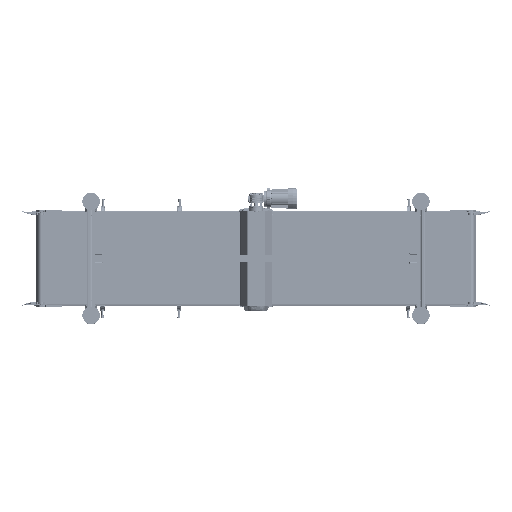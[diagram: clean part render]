
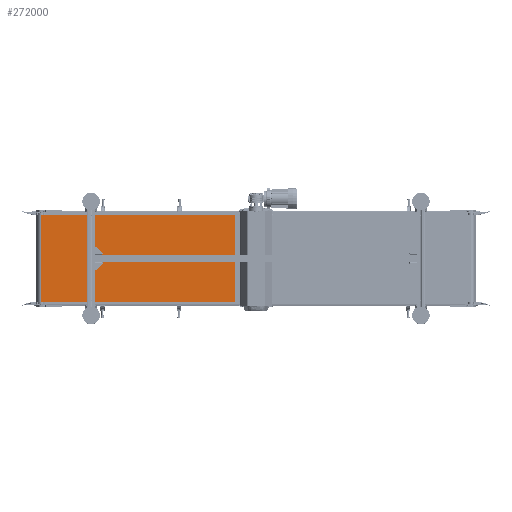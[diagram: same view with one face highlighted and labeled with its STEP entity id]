
A CAD part, front view. The second image highlights one B-rep face of the part: STEP entity #272000.
In plain terms, the highlighted planar face has unit normal (0, -1, 0).
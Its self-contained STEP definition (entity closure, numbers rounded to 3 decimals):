
#8278 = AXIS2_PLACEMENT_3D ( 'NONE', #306815, #258265, #112532 ) ;
#15733 = DIRECTION ( 'NONE',  ( 0., 0., -1. ) ) ;
#22550 = DIRECTION ( 'NONE',  ( 0., 0., -1. ) ) ;
#30141 = CARTESIAN_POINT ( 'NONE',  ( -1230., -27., -250. ) ) ;
#37878 = VECTOR ( 'NONE', #165054, 1000. ) ;
#63345 = LINE ( 'NONE', #210794, #67002 ) ;
#67002 = VECTOR ( 'NONE', #162222, 1000. ) ;
#112532 = DIRECTION ( 'NONE',  ( -1., 0., 0. ) ) ;
#135690 = CARTESIAN_POINT ( 'NONE',  ( -1230., -27., 250. ) ) ;
#145468 = VERTEX_POINT ( 'NONE', #30141 ) ;
#145730 = LINE ( 'NONE', #244416, #289560 ) ;
#159480 = ORIENTED_EDGE ( 'NONE', *, *, #283167, .T. ) ;
#162222 = DIRECTION ( 'NONE',  ( 1., 0., 0. ) ) ;
#162691 = PLANE ( 'NONE',  #8278 ) ;
#165054 = DIRECTION ( 'NONE',  ( 1., 0., 0. ) ) ;
#183079 = EDGE_LOOP ( 'NONE', ( #159480, #282629, #218718, #283348 ) ) ;
#189290 = LINE ( 'NONE', #289654, #37878 ) ;
#192751 = CARTESIAN_POINT ( 'NONE',  ( -59., -27., -250. ) ) ;
#210794 = CARTESIAN_POINT ( 'NONE',  ( -1230., -27., 250. ) ) ;
#218718 = ORIENTED_EDGE ( 'NONE', *, *, #308231, .F. ) ;
#230756 = CARTESIAN_POINT ( 'NONE',  ( -59., -27., 250. ) ) ;
#233957 = CARTESIAN_POINT ( 'NONE',  ( -1230., -27., 250. ) ) ;
#242923 = EDGE_CURVE ( 'NONE', #247944, #145468, #310455, .T. ) ;
#244416 = CARTESIAN_POINT ( 'NONE',  ( -59., -27., 250. ) ) ;
#247944 = VERTEX_POINT ( 'NONE', #233957 ) ;
#258265 = DIRECTION ( 'NONE',  ( 0., 1., 0. ) ) ;
#259812 = FACE_OUTER_BOUND ( 'NONE', #183079, .T. ) ;
#264632 = EDGE_CURVE ( 'NONE', #280581, #314651, #145730, .T. ) ;
#272000 = ADVANCED_FACE ( 'NONE', ( #259812 ), #162691, .F. ) ;
#280581 = VERTEX_POINT ( 'NONE', #230756 ) ;
#282629 = ORIENTED_EDGE ( 'NONE', *, *, #264632, .F. ) ;
#283167 = EDGE_CURVE ( 'NONE', #145468, #314651, #189290, .T. ) ;
#283348 = ORIENTED_EDGE ( 'NONE', *, *, #242923, .T. ) ;
#289560 = VECTOR ( 'NONE', #22550, 1000. ) ;
#289654 = CARTESIAN_POINT ( 'NONE',  ( -1230., -27., -250. ) ) ;
#299378 = VECTOR ( 'NONE', #15733, 1000. ) ;
#306815 = CARTESIAN_POINT ( 'NONE',  ( -1230., -27., 250. ) ) ;
#308231 = EDGE_CURVE ( 'NONE', #247944, #280581, #63345, .T. ) ;
#310455 = LINE ( 'NONE', #135690, #299378 ) ;
#314651 = VERTEX_POINT ( 'NONE', #192751 ) ;
